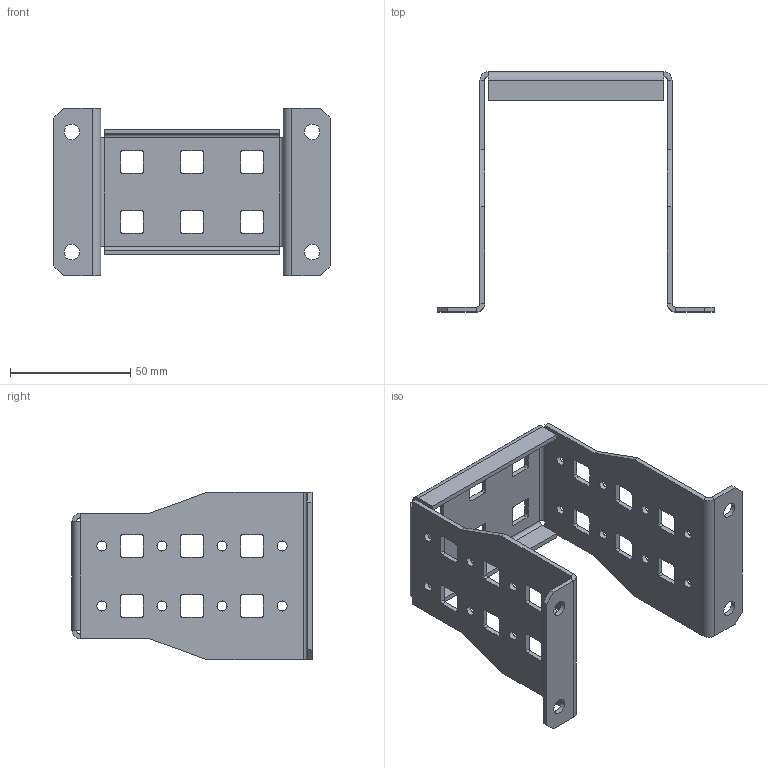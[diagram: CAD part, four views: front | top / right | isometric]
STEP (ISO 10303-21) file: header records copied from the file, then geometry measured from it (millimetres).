
FILE_DESCRIPTION (( 'STEP AP203' ), '1' );
FILE_NAME ('B 6 G Êîíñîëü (08.11.2021).STEP', '2021-11-08T11:28:24', ( '' ), ( '' ), 'SwSTEP 2.0', 'SolidWorks 2018', '' );
FILE_SCHEMA (( 'CONFIG_CONTROL_DESIGN' ));
Length unit declared in the file: millimetre
Products named in the file (1): B 6 G Êîíñîëü (08.11.2021)
Bounding box: 115 x 100 x 69.6 mm (x, y, z)
Volume: 35585.4 mm3; surface area: 39115.6 mm2
Topology: 1 solids, 1 shells, 254 faces, 708 edges, 456 vertices
Faces by surface type: plane 130, cylinder 124
Entity records: 8385 total; most frequent: DIRECTION 1466, CARTESIAN_POINT 1419, ORIENTED_EDGE 1416, EDGE_CURVE 708, AXIS2_PLACEMENT_3D 503, VECTOR 460, LINE 460, VERTEX_POINT 456
